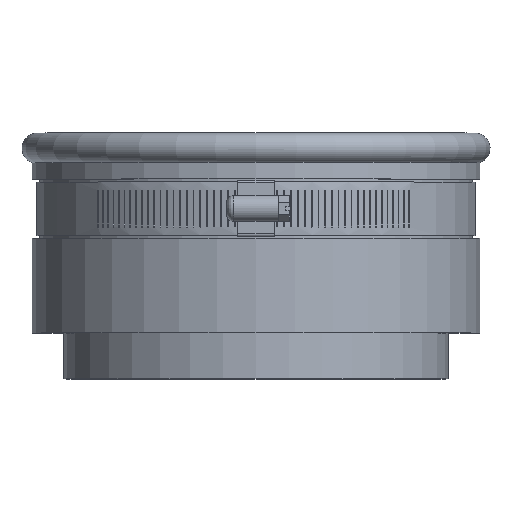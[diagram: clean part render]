
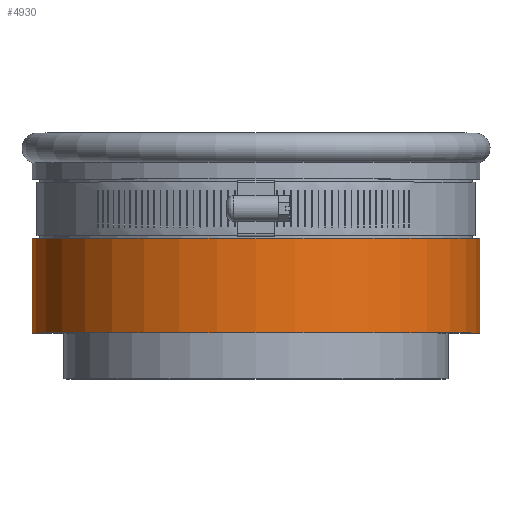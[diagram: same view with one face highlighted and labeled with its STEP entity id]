
A CAD part, top view. The second image highlights one B-rep face of the part: STEP entity #4930.
In plain terms, the highlighted cylindrical face has radius 60.5 mm (diameter 121 mm), a full revolution.
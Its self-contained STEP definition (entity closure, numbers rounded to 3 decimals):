
#54=FACE_BOUND('',#1563,.T.);
#1025=CYLINDRICAL_SURFACE('',#5343,60.5);
#1266=FACE_OUTER_BOUND('',#1562,.T.);
#1562=EDGE_LOOP('',(#3723));
#1563=EDGE_LOOP('',(#3724));
#1833=CIRCLE('',#5342,60.5);
#1834=CIRCLE('',#5344,60.5);
#2233=VERTEX_POINT('',#7927);
#2234=VERTEX_POINT('',#7930);
#2819=EDGE_CURVE('',#2233,#2233,#1833,.T.);
#2820=EDGE_CURVE('',#2234,#2234,#1834,.T.);
#3723=ORIENTED_EDGE('',*,*,#2819,.F.);
#3724=ORIENTED_EDGE('',*,*,#2820,.T.);
#4930=ADVANCED_FACE('',(#1266,#54),#1025,.T.);
#5342=AXIS2_PLACEMENT_3D('',#7928,#6530,#6531);
#5343=AXIS2_PLACEMENT_3D('',#7929,#6532,#6533);
#5344=AXIS2_PLACEMENT_3D('',#7931,#6534,#6535);
#6530=DIRECTION('center_axis',(0.,1.,0.));
#6531=DIRECTION('ref_axis',(1.,0.,0.));
#6532=DIRECTION('center_axis',(0.,1.,0.));
#6533=DIRECTION('ref_axis',(0.,0.,1.));
#6534=DIRECTION('center_axis',(0.,1.,0.));
#6535=DIRECTION('ref_axis',(1.,0.,0.));
#7927=CARTESIAN_POINT('',(0.,-28.5,60.5));
#7928=CARTESIAN_POINT('Origin',(0.,-28.5,0.));
#7929=CARTESIAN_POINT('Origin',(0.,-41.3,0.));
#7930=CARTESIAN_POINT('',(0.,-54.1,60.5));
#7931=CARTESIAN_POINT('Origin',(0.,-54.1,0.));
